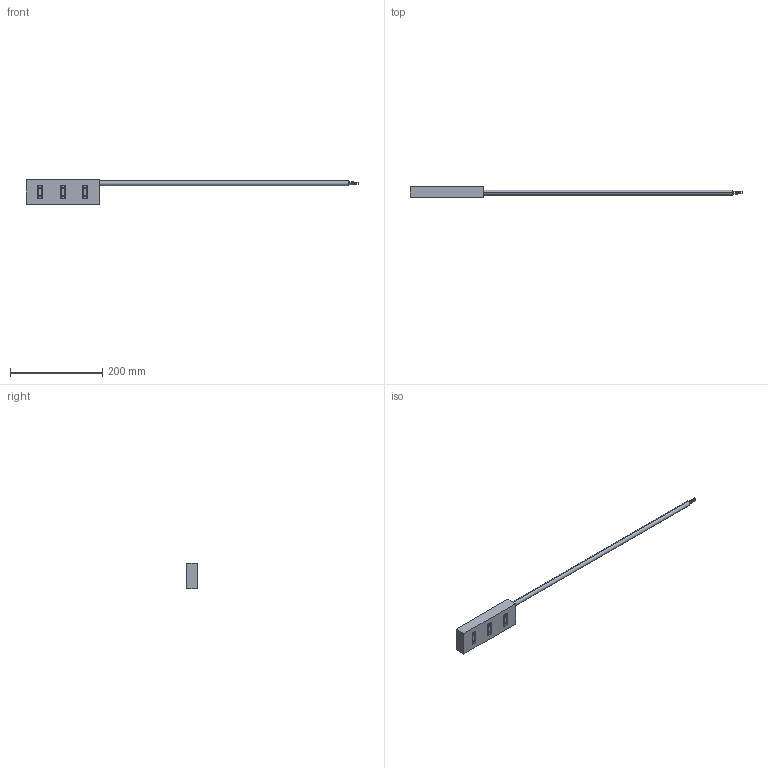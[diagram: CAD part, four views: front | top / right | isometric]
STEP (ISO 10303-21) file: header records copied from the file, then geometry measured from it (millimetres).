
FILE_DESCRIPTION (( 'STEP AP214' ), '1' );
FILE_NAME ('CoilUnitTD55-6N.STEP', '2025-03-07T09:27:47', ( '' ), ( '' ), 'SwSTEP 2.0', 'SolidWorks 2023', '' );
FILE_SCHEMA (( 'AUTOMOTIVE_DESIGN' ));
Length unit declared in the file: millimetre
Products named in the file (1): CoilUnitTD55-6N
Bounding box: 720.08 x 23.6 x 54.97 mm (x, y, z)
Volume: 252114.7 mm3; surface area: 46360.9 mm2
Topology: 1 solids, 7 shells, 163 faces, 354 edges, 234 vertices
Faces by surface type: cylinder 82, plane 73, cone 8
Entity records: 6388 total; most frequent: CARTESIAN_POINT 872, DIRECTION 830, ORIENTED_EDGE 700, EDGE_CURVE 350, AXIS2_PLACEMENT_3D 328, VERTEX_POINT 234, EDGE_LOOP 196, LINE 174
